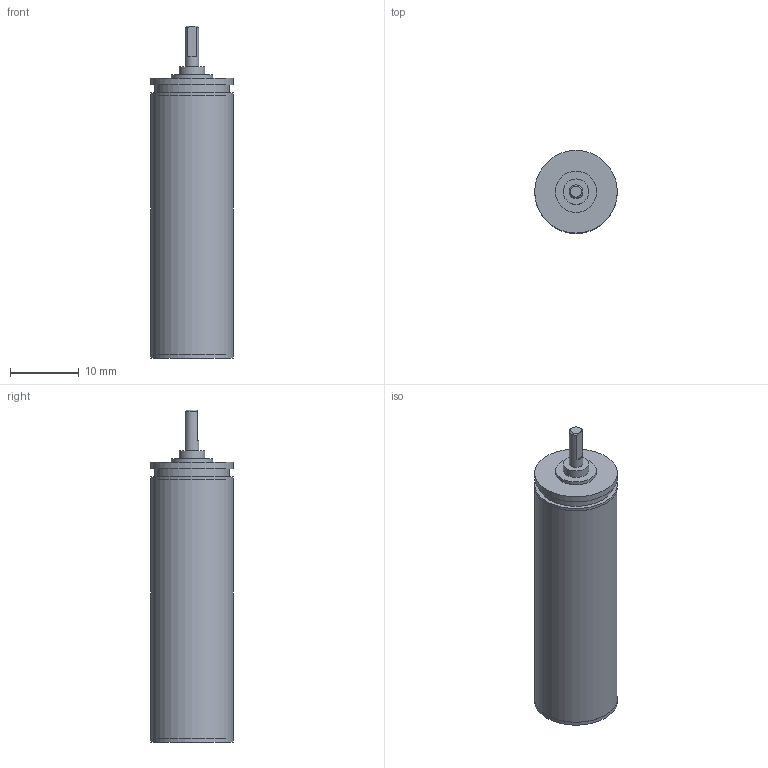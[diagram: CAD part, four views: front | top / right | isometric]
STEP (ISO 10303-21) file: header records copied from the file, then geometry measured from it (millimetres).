
FILE_DESCRIPTION(/* description */ (''),/* implementation_level */ '2;1');
FILE_NAME(/* name */ '12-3_15.stp',/* time_stamp */ '2016-08-24T10:17:32+02:00',/* author */ ('DR. FRITZ FAULHABER GmbH & Co. KG'),/* organization */ ('DR. FRITZ FAULHABER GmbH & Co. KG'),/* preprocessor_version */ 'ST-DEVELOPER v16',/* originating_system */ 'SIEMENS PLM Software NX 10.0',/* authorisation */ '');
FILE_SCHEMA (('AUTOMOTIVE_DESIGN { 1 0 10303 214 3 1 1 1 }'));
Length unit declared in the file: millimetre
Products named in the file (1): H00000578_A
Bounding box: 12 x 12 x 48.2 mm (x, y, z)
Volume: 4541.1 mm3; surface area: 1919 mm2
Topology: 1 solids, 1 shells, 32 faces, 52 edges, 34 vertices
Faces by surface type: plane 16, cylinder 14, cone 2
Full cylindrical faces by diameter (mm): 2 x1, 2.48 x1, 2.6 x1, 3.7 x1, 5 x1, 6 x2, 10.88 x1, 11.99 x2, 12 x4
Entity records: 692 total; most frequent: DIRECTION 129, CARTESIAN_POINT 115, ORIENTED_EDGE 70, AXIS2_PLACEMENT_3D 63, EDGE_LOOP 59, FACE_BOUND 54, EDGE_CURVE 35, ADVANCED_FACE 32
